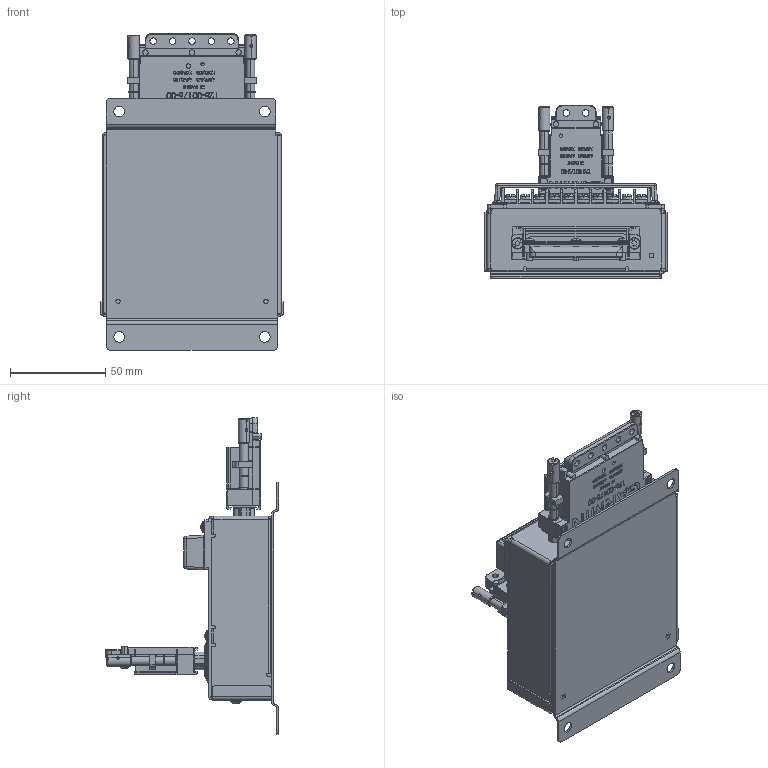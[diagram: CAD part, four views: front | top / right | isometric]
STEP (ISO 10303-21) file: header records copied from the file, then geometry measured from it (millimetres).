
FILE_DESCRIPTION (( 'STEP AP203' ), '1' );
FILE_NAME ('GAD27_rev3.STEP', '2015-10-12T18:44:38', ( 'Garmin' ), ( 'Garmin' ), 'SwSTEP 2.0', 'SolidWorks 2014', '' );
FILE_SCHEMA (( 'CONFIG_CONTROL_DESIGN' ));
Products named in the file (1): GAD27_rev3
Bounding box: 96.01 x 90.65 x 165.93 mm (x, y, z)
Volume: 348218.4 mm3; surface area: 94987.9 mm2
Topology: 3 solids, 27 shells, 4163 faces, 10550 edges, 6711 vertices
Faces by surface type: plane 2109, cylinder 1109, bspline 723, torus 130, cone 49, sphere 43
Entity records: 178156 total; most frequent: CARTESIAN_POINT 84887, ORIENTED_EDGE 21014, DIRECTION 16482, EDGE_CURVE 10507, VERTEX_POINT 6711, LINE 5504, VECTOR 5504, AXIS2_PLACEMENT_3D 5489
